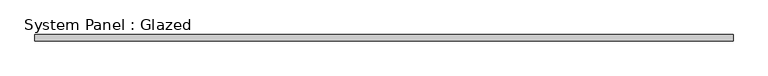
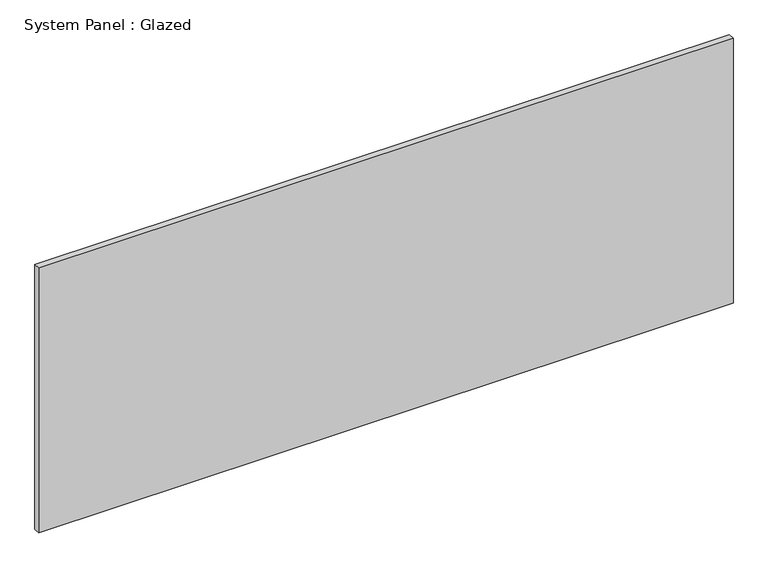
"""IFC4 building model written with IfcOpenShell, lengths in millimetres: plate geometry, System Panel : Glazed."""

from ifc_helpers import new_model, si_unit, origin, origin_with_axes, place, context, project, spatial, polyline, outline, extrude, source, transform, mapped, element, save


def system_panel_glazed_6cd03a5f(model_context):
    return source(origin(), model_context, "Body", "SweptSolid", [
        extrude(outline(polyline([(1395.2963125, 24.5), (-1395.2963125, 24.5), (-1395.2963125, 49.5), (1395.2963125, 49.5), (1395.2963125, 24.5)])), origin_with_axes(), (0.0, 0.0, 1.0), 1125.0),
    ])


if __name__ == "__main__":
    model = new_model("IFC4")
    model_context = context("Model", 3, world=origin())
    ifc_project = project(units=[si_unit("LENGTHUNIT", "METRE", prefix="MILLI")], contexts=[model_context])
    site = spatial("IfcSite", under=ifc_project)
    building = spatial("IfcBuilding", under=site)
    placement = place(None, origin())
    system_panel_glazed_shape = system_panel_glazed_6cd03a5f(model_context)
    element("IfcPlate", 1, ObjectType="System Panel : Glazed", at=placement, inside=building, context=model_context, shape_type="MappedRepresentation", body=[
        mapped(system_panel_glazed_shape, transform((0.0, 0.0, 0.0), x_axis=(1.0, 0.0, 0.0), y_axis=(0.0, 1.0, 0.0), z_axis=(0.0, 0.0, 1.0))),
    ])
    save(model, "model.ifc")
